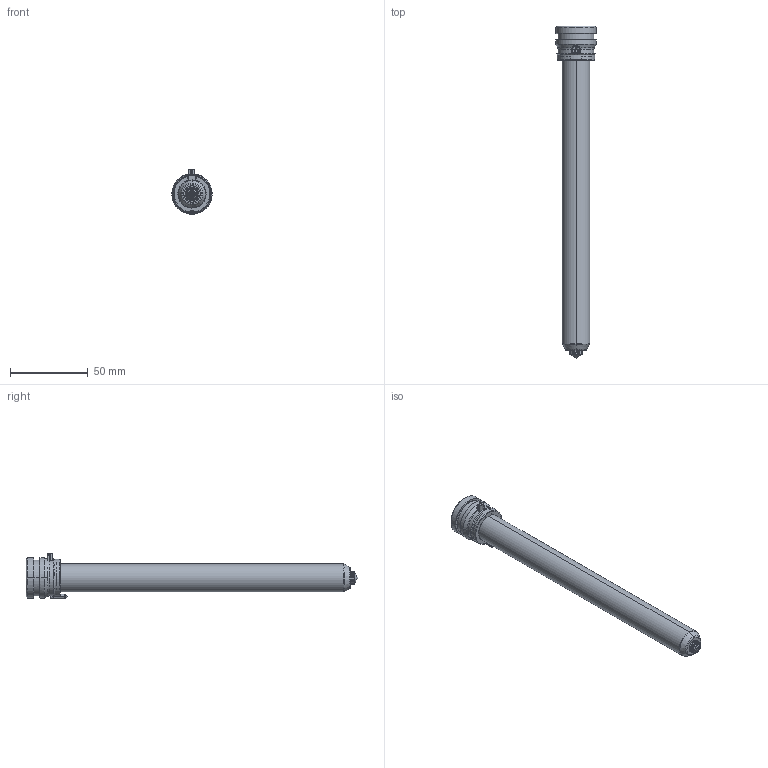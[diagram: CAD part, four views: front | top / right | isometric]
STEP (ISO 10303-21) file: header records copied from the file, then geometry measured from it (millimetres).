
FILE_DESCRIPTION((''),'2;1');
FILE_NAME('TH18196-A-1GLT-PK-JG','2023-12-14T',('umhib'),('Thermoplay S.p.A.'),'PRO/ENGINEER BY PARAMETRIC TECHNOLOGY CORPORATION, 2017170','PRO/ENGINEER BY PARAMETRIC TECHNOLOGY CORPORATION, 2017170','');
FILE_SCHEMA(('CONFIG_CONTROL_DESIGN'));
Length unit declared in the file: millimetre
Products named in the file (1): TH18196-A-1GLT-PK-JG
Bounding box: 26 x 214 x 29.5 mm (x, y, z)
Volume: 42143.5 mm3; surface area: 30851.4 mm2
Topology: 1 solids, 2 shells, 418 faces, 1085 edges, 675 vertices
Faces by surface type: cylinder 162, plane 90, cone 68, torus 62, bspline 24, sphere 10, extrusion 2
Entity records: 18174 total; most frequent: CARTESIAN_POINT 5903, DIRECTION 2181, ORIENTED_EDGE 2146, EDGE_CURVE 1075, AXIS2_PLACEMENT_3D 883, VERTEX_POINT 675, CIRCLE 490, EDGE_LOOP 443
